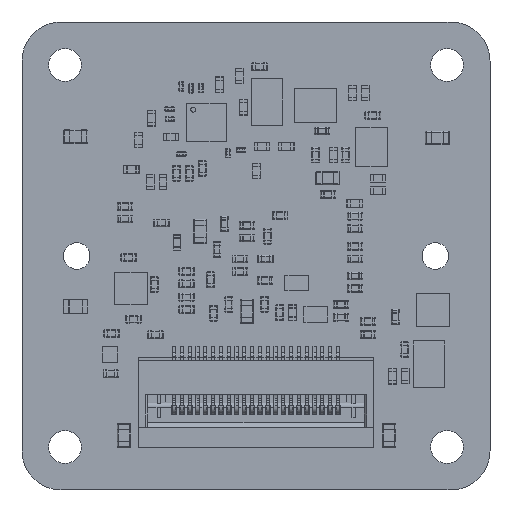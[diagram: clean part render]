
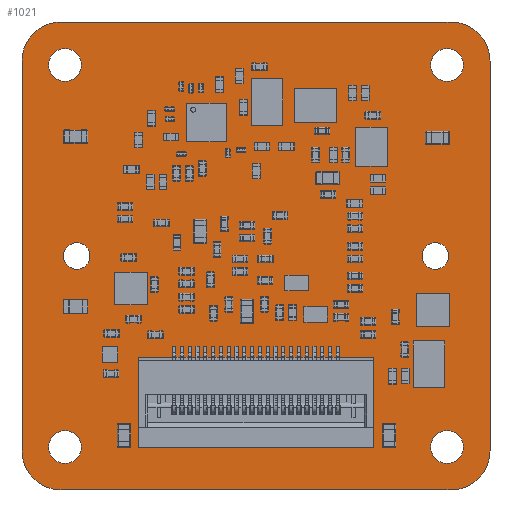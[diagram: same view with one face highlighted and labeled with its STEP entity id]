
A CAD part, top view. The second image highlights one B-rep face of the part: STEP entity #1021.
In plain terms, the highlighted planar face has unit normal (0, 0, 1).
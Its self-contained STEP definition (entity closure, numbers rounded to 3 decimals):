
#540 = VERTEX_POINT('',#541);
#541 = CARTESIAN_POINT('',(0.,2.5,1.002));
#547 = EDGE_CURVE('',#540,#548,#550,.T.);
#548 = VERTEX_POINT('',#549);
#549 = CARTESIAN_POINT('',(-0.006,27.5,1.002));
#550 = LINE('',#551,#552);
#551 = CARTESIAN_POINT('',(0.,2.5,1.002));
#552 = VECTOR('',#553,1.);
#553 = DIRECTION('',(0.,1.,0.));
#578 = EDGE_CURVE('',#548,#579,#581,.T.);
#579 = VERTEX_POINT('',#580);
#580 = CARTESIAN_POINT('',(2.5,30.,1.002));
#581 = CIRCLE('',#582,2.496);
#582 = AXIS2_PLACEMENT_3D('',#583,#584,#585);
#583 = CARTESIAN_POINT('',(2.49,27.504,1.002));
#584 = DIRECTION('',(0.,0.,-1.));
#585 = DIRECTION('',(-1.,-0.002,0.));
#611 = EDGE_CURVE('',#579,#612,#614,.T.);
#612 = VERTEX_POINT('',#613);
#613 = CARTESIAN_POINT('',(27.5,30.,1.002));
#614 = LINE('',#615,#616);
#615 = CARTESIAN_POINT('',(2.5,30.,1.002));
#616 = VECTOR('',#617,1.);
#617 = DIRECTION('',(1.,0.,0.));
#642 = EDGE_CURVE('',#612,#643,#645,.T.);
#643 = VERTEX_POINT('',#644);
#644 = CARTESIAN_POINT('',(30.,27.5,1.002));
#645 = CIRCLE('',#646,2.499);
#646 = AXIS2_PLACEMENT_3D('',#647,#648,#649);
#647 = CARTESIAN_POINT('',(27.501,27.501,1.002));
#648 = DIRECTION('',(0.,0.,-1.));
#649 = DIRECTION('',(0.,1.,0.));
#675 = EDGE_CURVE('',#643,#676,#678,.T.);
#676 = VERTEX_POINT('',#677);
#677 = CARTESIAN_POINT('',(30.,2.5,1.002));
#678 = LINE('',#679,#680);
#679 = CARTESIAN_POINT('',(30.,27.5,1.002));
#680 = VECTOR('',#681,1.);
#681 = DIRECTION('',(0.,-1.,0.));
#706 = EDGE_CURVE('',#676,#707,#709,.T.);
#707 = VERTEX_POINT('',#708);
#708 = CARTESIAN_POINT('',(27.5,0.,1.002));
#709 = CIRCLE('',#710,2.499);
#710 = AXIS2_PLACEMENT_3D('',#711,#712,#713);
#711 = CARTESIAN_POINT('',(27.501,2.499,1.002));
#712 = DIRECTION('',(0.,0.,-1.));
#713 = DIRECTION('',(1.,0.,0.));
#739 = EDGE_CURVE('',#707,#740,#742,.T.);
#740 = VERTEX_POINT('',#741);
#741 = CARTESIAN_POINT('',(2.5,0.,1.002));
#742 = LINE('',#743,#744);
#743 = CARTESIAN_POINT('',(27.5,0.,1.002));
#744 = VECTOR('',#745,1.);
#745 = DIRECTION('',(-1.,0.,0.));
#770 = EDGE_CURVE('',#740,#540,#771,.T.);
#771 = CIRCLE('',#772,2.499);
#772 = AXIS2_PLACEMENT_3D('',#773,#774,#775);
#773 = CARTESIAN_POINT('',(2.499,2.499,1.002));
#774 = DIRECTION('',(0.,0.,-1.));
#775 = DIRECTION('',(0.,-1.,0.));
#796 = VERTEX_POINT('',#797);
#797 = CARTESIAN_POINT('',(3.8,2.75,1.002));
#803 = EDGE_CURVE('',#796,#796,#804,.T.);
#804 = CIRCLE('',#805,1.05);
#805 = AXIS2_PLACEMENT_3D('',#806,#807,#808);
#806 = CARTESIAN_POINT('',(2.75,2.75,1.002));
#807 = DIRECTION('',(0.,0.,1.));
#808 = DIRECTION('',(1.,0.,0.));
#829 = VERTEX_POINT('',#830);
#830 = CARTESIAN_POINT('',(3.8,27.25,1.002));
#836 = EDGE_CURVE('',#829,#829,#837,.T.);
#837 = CIRCLE('',#838,1.05);
#838 = AXIS2_PLACEMENT_3D('',#839,#840,#841);
#839 = CARTESIAN_POINT('',(2.75,27.25,1.002));
#840 = DIRECTION('',(0.,0.,1.));
#841 = DIRECTION('',(1.,0.,0.));
#862 = VERTEX_POINT('',#863);
#863 = CARTESIAN_POINT('',(4.35,15.,1.002));
#869 = EDGE_CURVE('',#862,#862,#870,.T.);
#870 = CIRCLE('',#871,0.85);
#871 = AXIS2_PLACEMENT_3D('',#872,#873,#874);
#872 = CARTESIAN_POINT('',(3.5,15.,1.002));
#873 = DIRECTION('',(0.,0.,1.));
#874 = DIRECTION('',(1.,0.,0.));
#895 = VERTEX_POINT('',#896);
#896 = CARTESIAN_POINT('',(28.3,2.75,1.002));
#902 = EDGE_CURVE('',#895,#895,#903,.T.);
#903 = CIRCLE('',#904,1.05);
#904 = AXIS2_PLACEMENT_3D('',#905,#906,#907);
#905 = CARTESIAN_POINT('',(27.25,2.75,1.002));
#906 = DIRECTION('',(0.,0.,1.));
#907 = DIRECTION('',(1.,0.,0.));
#928 = VERTEX_POINT('',#929);
#929 = CARTESIAN_POINT('',(27.35,15.,1.002));
#935 = EDGE_CURVE('',#928,#928,#936,.T.);
#936 = CIRCLE('',#937,0.85);
#937 = AXIS2_PLACEMENT_3D('',#938,#939,#940);
#938 = CARTESIAN_POINT('',(26.5,15.,1.002));
#939 = DIRECTION('',(0.,0.,1.));
#940 = DIRECTION('',(1.,0.,0.));
#961 = VERTEX_POINT('',#962);
#962 = CARTESIAN_POINT('',(28.3,27.25,1.002));
#968 = EDGE_CURVE('',#961,#961,#969,.T.);
#969 = CIRCLE('',#970,1.05);
#970 = AXIS2_PLACEMENT_3D('',#971,#972,#973);
#971 = CARTESIAN_POINT('',(27.25,27.25,1.002));
#972 = DIRECTION('',(0.,0.,1.));
#973 = DIRECTION('',(1.,0.,0.));
#1021 = ADVANCED_FACE('',(#1022,#1032,#1035,#1038,#1041,#1044,#1047),
  #1050,.T.);
#1022 = FACE_BOUND('',#1023,.F.);
#1023 = EDGE_LOOP('',(#1024,#1025,#1026,#1027,#1028,#1029,#1030,#1031));
#1024 = ORIENTED_EDGE('',*,*,#547,.T.);
#1025 = ORIENTED_EDGE('',*,*,#578,.T.);
#1026 = ORIENTED_EDGE('',*,*,#611,.T.);
#1027 = ORIENTED_EDGE('',*,*,#642,.T.);
#1028 = ORIENTED_EDGE('',*,*,#675,.T.);
#1029 = ORIENTED_EDGE('',*,*,#706,.T.);
#1030 = ORIENTED_EDGE('',*,*,#739,.T.);
#1031 = ORIENTED_EDGE('',*,*,#770,.T.);
#1032 = FACE_BOUND('',#1033,.T.);
#1033 = EDGE_LOOP('',(#1034));
#1034 = ORIENTED_EDGE('',*,*,#803,.F.);
#1035 = FACE_BOUND('',#1036,.T.);
#1036 = EDGE_LOOP('',(#1037));
#1037 = ORIENTED_EDGE('',*,*,#836,.F.);
#1038 = FACE_BOUND('',#1039,.T.);
#1039 = EDGE_LOOP('',(#1040));
#1040 = ORIENTED_EDGE('',*,*,#869,.F.);
#1041 = FACE_BOUND('',#1042,.T.);
#1042 = EDGE_LOOP('',(#1043));
#1043 = ORIENTED_EDGE('',*,*,#902,.F.);
#1044 = FACE_BOUND('',#1045,.T.);
#1045 = EDGE_LOOP('',(#1046));
#1046 = ORIENTED_EDGE('',*,*,#935,.F.);
#1047 = FACE_BOUND('',#1048,.T.);
#1048 = EDGE_LOOP('',(#1049));
#1049 = ORIENTED_EDGE('',*,*,#968,.F.);
#1050 = PLANE('',#1051);
#1051 = AXIS2_PLACEMENT_3D('',#1052,#1053,#1054);
#1052 = CARTESIAN_POINT('',(0.,2.5,1.002));
#1053 = DIRECTION('',(0.,0.,1.));
#1054 = DIRECTION('',(1.,0.,0.));
